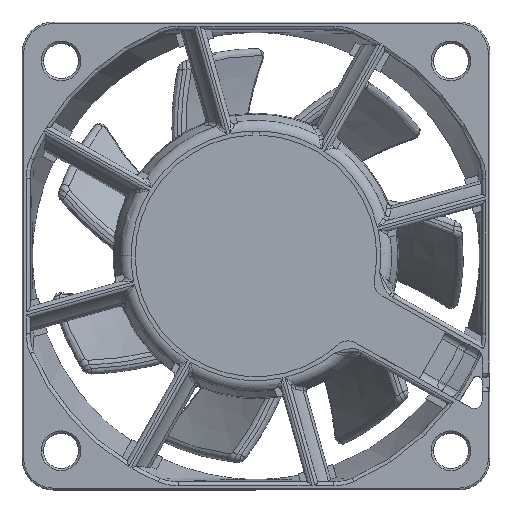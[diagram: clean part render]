
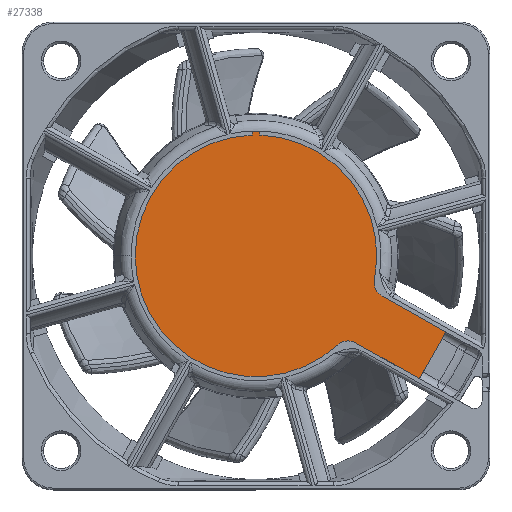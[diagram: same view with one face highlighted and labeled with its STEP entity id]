
A CAD part, top view. The second image highlights one B-rep face of the part: STEP entity #27338.
In plain terms, the highlighted planar face has unit normal (0, 0, 1).
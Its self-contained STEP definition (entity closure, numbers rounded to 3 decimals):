
#40 = CARTESIAN_POINT ( 'NONE',  ( 12.796, -11.168, -0.1 ) ) ;
#205 = ORIENTED_EDGE ( 'NONE', *, *, #10483, .T. ) ;
#311 = DIRECTION ( 'NONE',  ( 0., 1., 0. ) ) ;
#316 = EDGE_CURVE ( 'NONE', #22610, #14032, #1266, .T. ) ;
#755 = DIRECTION ( 'NONE',  ( 0., 0., -1. ) ) ;
#934 = DIRECTION ( 'NONE',  ( 1., 0., 0. ) ) ;
#954 = DIRECTION ( 'NONE',  ( 0., 0., -1. ) ) ;
#1121 = EDGE_CURVE ( 'NONE', #14032, #6925, #4902, .T. ) ;
#1189 = VERTEX_POINT ( 'NONE', #19955 ) ;
#1266 = LINE ( 'NONE', #8251, #5885 ) ;
#1382 = EDGE_CURVE ( 'NONE', #7800, #11354, #16065, .T. ) ;
#1420 = DIRECTION ( 'NONE',  ( 1., 0., 0. ) ) ;
#1709 = ORIENTED_EDGE ( 'NONE', *, *, #1121, .T. ) ;
#2193 = ORIENTED_EDGE ( 'NONE', *, *, #10071, .T. ) ;
#2945 = DIRECTION ( 'NONE',  ( -0.871, 0.491, 0. ) ) ;
#3420 = VERTEX_POINT ( 'NONE', #11586 ) ;
#3766 = EDGE_LOOP ( 'NONE', ( #23612, #20737, #26149, #21273, #18835, #17574, #1709, #24297, #15478, #24670, #205, #2193 ) ) ;
#4902 = LINE ( 'NONE', #23948, #19358 ) ;
#5242 = CIRCLE ( 'NONE', #11337, 2. ) ;
#5279 = LINE ( 'NONE', #21220, #17158 ) ;
#5371 = CARTESIAN_POINT ( 'NONE',  ( 15.164, -3.414, -0.1 ) ) ;
#5774 = CARTESIAN_POINT ( 'NONE',  ( -15.5, 0., -0.1 ) ) ;
#5885 = VECTOR ( 'NONE', #14708, 1000. ) ;
#5918 = DIRECTION ( 'NONE',  ( -1., 0., 0. ) ) ;
#6116 = CARTESIAN_POINT ( 'NONE',  ( 0., 0., -0.1 ) ) ;
#6230 = DIRECTION ( 'NONE',  ( 0., -1., 0. ) ) ;
#6646 = LINE ( 'NONE', #8721, #24460 ) ;
#6925 = VERTEX_POINT ( 'NONE', #25209 ) ;
#6946 = LINE ( 'NONE', #22312, #9582 ) ;
#7012 = AXIS2_PLACEMENT_3D ( 'NONE', #12696, #10676, #27271 ) ;
#7800 = VERTEX_POINT ( 'NONE', #21441 ) ;
#8039 = CIRCLE ( 'NONE', #24500, 15.5 ) ;
#8251 = CARTESIAN_POINT ( 'NONE',  ( 24.346, -9.755, -0.1 ) ) ;
#8572 = DIRECTION ( 'NONE',  ( 0., 0., 1. ) ) ;
#8721 = CARTESIAN_POINT ( 'NONE',  ( -0.5, 16., -0.1 ) ) ;
#9005 = EDGE_CURVE ( 'NONE', #13957, #11448, #6646, .T. ) ;
#9323 = EDGE_CURVE ( 'NONE', #3420, #22910, #23793, .T. ) ;
#9582 = VECTOR ( 'NONE', #5918, 1000. ) ;
#9882 = DIRECTION ( 'NONE',  ( 0., 0., -1. ) ) ;
#10071 = EDGE_CURVE ( 'NONE', #1189, #13957, #6946, .T. ) ;
#10175 = DIRECTION ( 'NONE',  ( -1., 0., 0. ) ) ;
#10483 = EDGE_CURVE ( 'NONE', #7800, #1189, #5279, .T. ) ;
#10676 = DIRECTION ( 'NONE',  ( 0., 0., -1. ) ) ;
#11337 = AXIS2_PLACEMENT_3D ( 'NONE', #20463, #9882, #1420 ) ;
#11354 = VERTEX_POINT ( 'NONE', #11915 ) ;
#11376 = DIRECTION ( 'NONE',  ( 0., 0., -1. ) ) ;
#11448 = VERTEX_POINT ( 'NONE', #16778 ) ;
#11586 = CARTESIAN_POINT ( 'NONE',  ( 10.464, -11.435, -0.1 ) ) ;
#11915 = CARTESIAN_POINT ( 'NONE',  ( 15.202, -3.024, -0.1 ) ) ;
#12218 = AXIS2_PLACEMENT_3D ( 'NONE', #14840, #8572, #25356 ) ;
#12261 = LINE ( 'NONE', #40, #18201 ) ;
#12314 = DIRECTION ( 'NONE',  ( 0., 0., -1. ) ) ;
#12674 = DIRECTION ( 'NONE',  ( 0.871, -0.491, 0. ) ) ;
#12696 = CARTESIAN_POINT ( 'NONE',  ( 0., 0., -0.1 ) ) ;
#12713 = PLANE ( 'NONE',  #12218 ) ;
#12817 = CARTESIAN_POINT ( 'NONE',  ( -0.5, 16., -0.1 ) ) ;
#13089 = CARTESIAN_POINT ( 'NONE',  ( 24.346, -9.755, -0.1 ) ) ;
#13620 = AXIS2_PLACEMENT_3D ( 'NONE', #17880, #755, #934 ) ;
#13656 = CIRCLE ( 'NONE', #20239, 2. ) ;
#13839 = DIRECTION ( 'NONE',  ( -1., 0., 0. ) ) ;
#13957 = VERTEX_POINT ( 'NONE', #12817 ) ;
#14032 = VERTEX_POINT ( 'NONE', #13089 ) ;
#14708 = DIRECTION ( 'NONE',  ( 0.491, 0.871, 0. ) ) ;
#14840 = CARTESIAN_POINT ( 'NONE',  ( 5.55, 0., -0.1 ) ) ;
#15273 = CARTESIAN_POINT ( 'NONE',  ( 20.96, -15.767, -0.1 ) ) ;
#15478 = ORIENTED_EDGE ( 'NONE', *, *, #16253, .T. ) ;
#15766 = CIRCLE ( 'NONE', #13620, 2. ) ;
#15820 = EDGE_CURVE ( 'NONE', #6925, #20500, #5242, .T. ) ;
#16065 = CIRCLE ( 'NONE', #26091, 15.5 ) ;
#16253 = EDGE_CURVE ( 'NONE', #20500, #11354, #15766, .T. ) ;
#16778 = CARTESIAN_POINT ( 'NONE',  ( -0.5, 15.492, -0.1 ) ) ;
#17158 = VECTOR ( 'NONE', #311, 1000. ) ;
#17574 = ORIENTED_EDGE ( 'NONE', *, *, #316, .T. ) ;
#17729 = CARTESIAN_POINT ( 'NONE',  ( 0., 0., -0.1 ) ) ;
#17880 = CARTESIAN_POINT ( 'NONE',  ( 17.164, -3.414, -0.1 ) ) ;
#18052 = CARTESIAN_POINT ( 'NONE',  ( 12.796, -11.168, -0.1 ) ) ;
#18201 = VECTOR ( 'NONE', #12674, 1000. ) ;
#18835 = ORIENTED_EDGE ( 'NONE', *, *, #23007, .T. ) ;
#19358 = VECTOR ( 'NONE', #2945, 1000. ) ;
#19955 = CARTESIAN_POINT ( 'NONE',  ( 0.5, 16., -0.1 ) ) ;
#20167 = VERTEX_POINT ( 'NONE', #18052 ) ;
#20239 = AXIS2_PLACEMENT_3D ( 'NONE', #21502, #11376, #23814 ) ;
#20374 = EDGE_CURVE ( 'NONE', #3420, #20167, #13656, .T. ) ;
#20463 = CARTESIAN_POINT ( 'NONE',  ( 17.164, -3.414, -0.1 ) ) ;
#20500 = VERTEX_POINT ( 'NONE', #5371 ) ;
#20531 = EDGE_CURVE ( 'NONE', #22910, #11448, #8039, .T. ) ;
#20737 = ORIENTED_EDGE ( 'NONE', *, *, #20531, .F. ) ;
#21220 = CARTESIAN_POINT ( 'NONE',  ( 0.5, 16., -0.1 ) ) ;
#21273 = ORIENTED_EDGE ( 'NONE', *, *, #20374, .T. ) ;
#21441 = CARTESIAN_POINT ( 'NONE',  ( 0.5, 15.492, -0.1 ) ) ;
#21502 = CARTESIAN_POINT ( 'NONE',  ( 11.814, -12.91, -0.1 ) ) ;
#22312 = CARTESIAN_POINT ( 'NONE',  ( -0.5, 16., -0.1 ) ) ;
#22610 = VERTEX_POINT ( 'NONE', #15273 ) ;
#22910 = VERTEX_POINT ( 'NONE', #5774 ) ;
#23007 = EDGE_CURVE ( 'NONE', #20167, #22610, #12261, .T. ) ;
#23612 = ORIENTED_EDGE ( 'NONE', *, *, #9005, .T. ) ;
#23793 = CIRCLE ( 'NONE', #7012, 15.5 ) ;
#23814 = DIRECTION ( 'NONE',  ( 1., 0., 0. ) ) ;
#23948 = CARTESIAN_POINT ( 'NONE',  ( 16.182, -5.156, -0.1 ) ) ;
#24297 = ORIENTED_EDGE ( 'NONE', *, *, #15820, .T. ) ;
#24460 = VECTOR ( 'NONE', #6230, 1000. ) ;
#24500 = AXIS2_PLACEMENT_3D ( 'NONE', #17729, #954, #13839 ) ;
#24670 = ORIENTED_EDGE ( 'NONE', *, *, #1382, .F. ) ;
#25209 = CARTESIAN_POINT ( 'NONE',  ( 16.182, -5.156, -0.1 ) ) ;
#25356 = DIRECTION ( 'NONE',  ( 1., 0., 0. ) ) ;
#26091 = AXIS2_PLACEMENT_3D ( 'NONE', #6116, #12314, #10175 ) ;
#26149 = ORIENTED_EDGE ( 'NONE', *, *, #9323, .F. ) ;
#26613 = FACE_OUTER_BOUND ( 'NONE', #3766, .T. ) ;
#27271 = DIRECTION ( 'NONE',  ( -1., 0., 0. ) ) ;
#27338 = ADVANCED_FACE ( 'NONE', ( #26613 ), #12713, .T. ) ;
